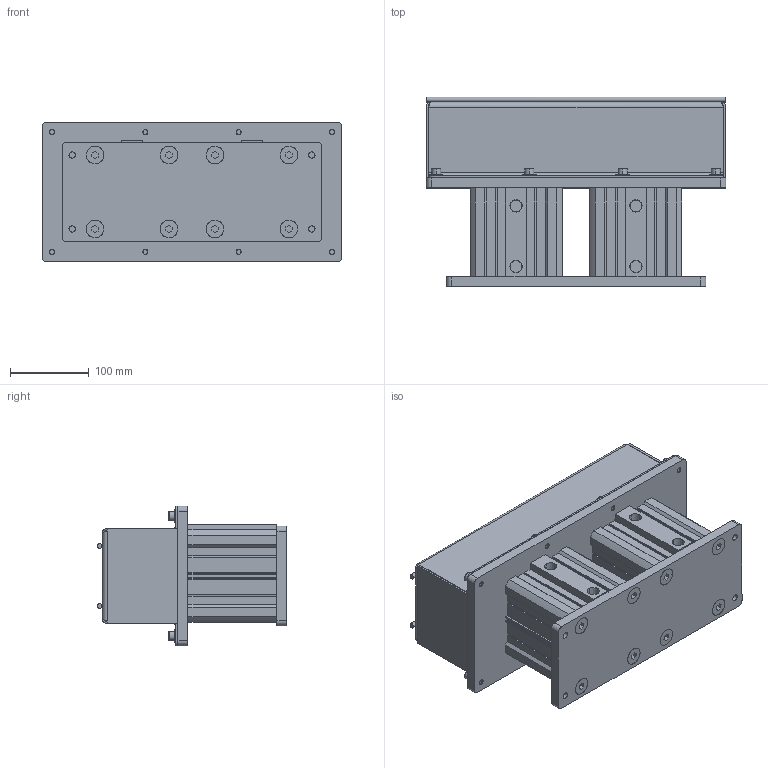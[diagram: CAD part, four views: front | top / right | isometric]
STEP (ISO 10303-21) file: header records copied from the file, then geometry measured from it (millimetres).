
FILE_DESCRIPTION (( 'STEP AP203' ), '1' );
FILE_NAME ('ARF15.STEP', '2021-01-19T13:43:25', ( '' ), ( '' ), 'SwSTEP 2.0', 'SolidWorks 2018', '' );
FILE_SCHEMA (( 'CONFIG_CONTROL_DESIGN' ));
Length unit declared in the file: inch
Products named in the file (1): ARF15
Bounding box: 381 x 241.1 x 177.8 mm (x, y, z)
Volume: 3320211.1 mm3; surface area: 926649.2 mm2
Topology: 35 solids, 35 shells, 1968 faces, 4304 edges, 2464 vertices
Faces by surface type: cone 760, cylinder 680, plane 472, torus 48, bspline 8
Entity records: 53655 total; most frequent: DIRECTION 10050, CARTESIAN_POINT 9321, ORIENTED_EDGE 8608, EDGE_CURVE 4304, AXIS2_PLACEMENT_3D 3801, VERTEX_POINT 2464, VECTOR 2448, LINE 2448
